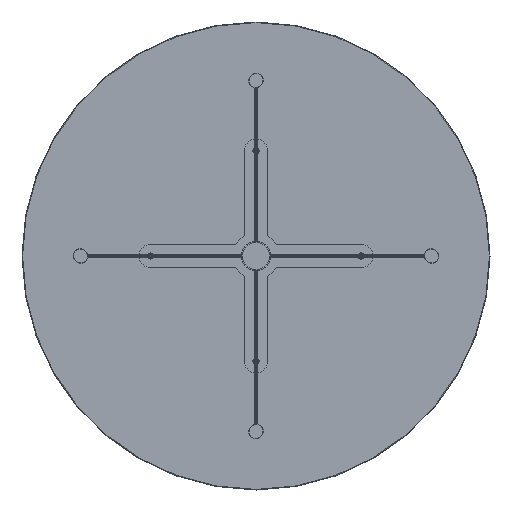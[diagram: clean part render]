
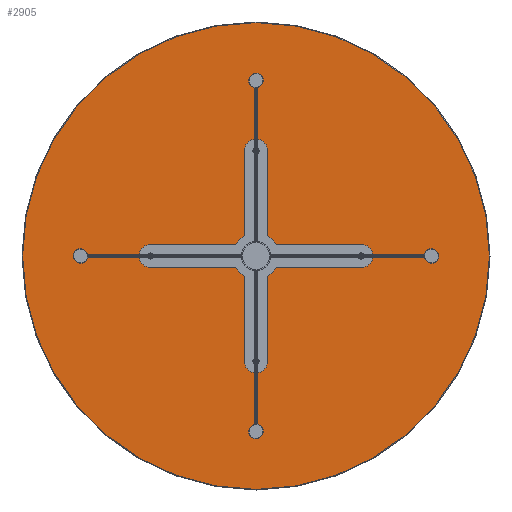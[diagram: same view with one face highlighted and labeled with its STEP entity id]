
A CAD part, front view. The second image highlights one B-rep face of the part: STEP entity #2905.
In plain terms, the highlighted planar face has unit normal (0, -1, 0).
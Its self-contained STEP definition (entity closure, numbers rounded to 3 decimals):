
#159 = DIRECTION ( 'NONE',  ( 0., 1., 0. ) ) ;
#210 = PLANE ( 'NONE',  #7181 ) ;
#286 = CARTESIAN_POINT ( 'NONE',  ( 0., -10., -177. ) ) ;
#321 = ORIENTED_EDGE ( 'NONE', *, *, #2271, .F. ) ;
#407 = AXIS2_PLACEMENT_3D ( 'NONE', #10227, #7865, #9594 ) ;
#576 = DIRECTION ( 'NONE',  ( 0., 0., -1. ) ) ;
#698 = DIRECTION ( 'NONE',  ( 0., 0., 1. ) ) ;
#818 = CIRCLE ( 'NONE', #7238, 399. ) ;
#955 = AXIS2_PLACEMENT_3D ( 'NONE', #2041, #2910, #3064 ) ;
#1029 = ORIENTED_EDGE ( 'NONE', *, *, #5957, .F. ) ;
#1082 = DIRECTION ( 'NONE',  ( 0., 0., -1. ) ) ;
#1107 = DIRECTION ( 'NONE',  ( 0., -1., 0. ) ) ;
#1289 = CARTESIAN_POINT ( 'NONE',  ( -180., -10., 3. ) ) ;
#1391 = VERTEX_POINT ( 'NONE', #2603 ) ;
#1572 = EDGE_LOOP ( 'NONE', ( #3768, #3410 ) ) ;
#1859 = VERTEX_POINT ( 'NONE', #286 ) ;
#1890 = CARTESIAN_POINT ( 'NONE',  ( 0., -10., -180. ) ) ;
#2041 = CARTESIAN_POINT ( 'NONE',  ( 0., -10., 180. ) ) ;
#2118 = ORIENTED_EDGE ( 'NONE', *, *, #6185, .T. ) ;
#2271 = EDGE_CURVE ( 'NONE', #1391, #4537, #7170, .T. ) ;
#2363 = CARTESIAN_POINT ( 'NONE',  ( 0., -10., 0. ) ) ;
#2397 = EDGE_CURVE ( 'NONE', #1859, #6957, #3127, .T. ) ;
#2475 = CARTESIAN_POINT ( 'NONE',  ( 180., -10., -3. ) ) ;
#2603 = CARTESIAN_POINT ( 'NONE',  ( 180., -10., 3. ) ) ;
#2692 = CIRCLE ( 'NONE', #6920, 3. ) ;
#2804 = DIRECTION ( 'NONE',  ( 0., -1., 0. ) ) ;
#2905 = ADVANCED_FACE ( 'NONE', ( #4163, #6200, #8963, #3604, #4464 ), #210, .F. ) ;
#2910 = DIRECTION ( 'NONE',  ( 0., -1., 0. ) ) ;
#3045 = DIRECTION ( 'NONE',  ( 0., -1., 0. ) ) ;
#3064 = DIRECTION ( 'NONE',  ( 0., 0., -1. ) ) ;
#3082 = CARTESIAN_POINT ( 'NONE',  ( 0., -10., -399. ) ) ;
#3127 = CIRCLE ( 'NONE', #6623, 3. ) ;
#3144 = EDGE_LOOP ( 'NONE', ( #6495, #1029 ) ) ;
#3410 = ORIENTED_EDGE ( 'NONE', *, *, #7760, .F. ) ;
#3550 = CARTESIAN_POINT ( 'NONE',  ( 0., -10., 177. ) ) ;
#3604 = FACE_BOUND ( 'NONE', #3144, .T. ) ;
#3621 = AXIS2_PLACEMENT_3D ( 'NONE', #7195, #1107, #3743 ) ;
#3715 = DIRECTION ( 'NONE',  ( 0., 0., 1. ) ) ;
#3743 = DIRECTION ( 'NONE',  ( 0., 0., -1. ) ) ;
#3749 = CARTESIAN_POINT ( 'NONE',  ( -180., -10., 0. ) ) ;
#3768 = ORIENTED_EDGE ( 'NONE', *, *, #3919, .F. ) ;
#3913 = CARTESIAN_POINT ( 'NONE',  ( 0., -10., 399. ) ) ;
#3919 = EDGE_CURVE ( 'NONE', #9378, #4864, #7383, .T. ) ;
#4028 = VERTEX_POINT ( 'NONE', #7730 ) ;
#4133 = ORIENTED_EDGE ( 'NONE', *, *, #5007, .F. ) ;
#4163 = FACE_OUTER_BOUND ( 'NONE', #10010, .T. ) ;
#4297 = DIRECTION ( 'NONE',  ( 0., -1., 0. ) ) ;
#4464 = FACE_BOUND ( 'NONE', #8282, .T. ) ;
#4537 = VERTEX_POINT ( 'NONE', #2475 ) ;
#4673 = DIRECTION ( 'NONE',  ( 0., 0., -1. ) ) ;
#4701 = CARTESIAN_POINT ( 'NONE',  ( 0., -10., 183. ) ) ;
#4832 = CIRCLE ( 'NONE', #11279, 399. ) ;
#4864 = VERTEX_POINT ( 'NONE', #4701 ) ;
#5007 = EDGE_CURVE ( 'NONE', #6957, #1859, #9604, .T. ) ;
#5030 = CIRCLE ( 'NONE', #9818, 3. ) ;
#5076 = ORIENTED_EDGE ( 'NONE', *, *, #8721, .F. ) ;
#5094 = CIRCLE ( 'NONE', #3621, 3. ) ;
#5937 = VERTEX_POINT ( 'NONE', #3913 ) ;
#5957 = EDGE_CURVE ( 'NONE', #7556, #4028, #5030, .T. ) ;
#5981 = ORIENTED_EDGE ( 'NONE', *, *, #2397, .F. ) ;
#6185 = EDGE_CURVE ( 'NONE', #5937, #10896, #818, .T. ) ;
#6200 = FACE_BOUND ( 'NONE', #8302, .T. ) ;
#6233 = DIRECTION ( 'NONE',  ( 0., -1., 0. ) ) ;
#6495 = ORIENTED_EDGE ( 'NONE', *, *, #10717, .F. ) ;
#6497 = DIRECTION ( 'NONE',  ( 0., 0., -1. ) ) ;
#6623 = AXIS2_PLACEMENT_3D ( 'NONE', #1890, #2804, #1082 ) ;
#6625 = ORIENTED_EDGE ( 'NONE', *, *, #7087, .T. ) ;
#6891 = CARTESIAN_POINT ( 'NONE',  ( 180., -10., 0. ) ) ;
#6920 = AXIS2_PLACEMENT_3D ( 'NONE', #10883, #3045, #6497 ) ;
#6957 = VERTEX_POINT ( 'NONE', #10615 ) ;
#7087 = EDGE_CURVE ( 'NONE', #10896, #5937, #4832, .T. ) ;
#7170 = CIRCLE ( 'NONE', #7199, 3. ) ;
#7181 = AXIS2_PLACEMENT_3D ( 'NONE', #10518, #159, #3715 ) ;
#7195 = CARTESIAN_POINT ( 'NONE',  ( 0., -10., 180. ) ) ;
#7199 = AXIS2_PLACEMENT_3D ( 'NONE', #6891, #4297, #11163 ) ;
#7238 = AXIS2_PLACEMENT_3D ( 'NONE', #2363, #8593, #698 ) ;
#7262 = DIRECTION ( 'NONE',  ( 0., -1., 0. ) ) ;
#7383 = CIRCLE ( 'NONE', #955, 3. ) ;
#7556 = VERTEX_POINT ( 'NONE', #1289 ) ;
#7730 = CARTESIAN_POINT ( 'NONE',  ( -180., -10., -3. ) ) ;
#7760 = EDGE_CURVE ( 'NONE', #4864, #9378, #5094, .T. ) ;
#7865 = DIRECTION ( 'NONE',  ( 0., -1., 0. ) ) ;
#8201 = DIRECTION ( 'NONE',  ( 0., 0., 1. ) ) ;
#8282 = EDGE_LOOP ( 'NONE', ( #4133, #5981 ) ) ;
#8302 = EDGE_LOOP ( 'NONE', ( #5076, #321 ) ) ;
#8593 = DIRECTION ( 'NONE',  ( 0., -1., 0. ) ) ;
#8721 = EDGE_CURVE ( 'NONE', #4537, #1391, #9468, .T. ) ;
#8963 = FACE_BOUND ( 'NONE', #1572, .T. ) ;
#9000 = CARTESIAN_POINT ( 'NONE',  ( 0., -10., 0. ) ) ;
#9286 = AXIS2_PLACEMENT_3D ( 'NONE', #9444, #10253, #576 ) ;
#9378 = VERTEX_POINT ( 'NONE', #3550 ) ;
#9444 = CARTESIAN_POINT ( 'NONE',  ( 180., -10., 0. ) ) ;
#9468 = CIRCLE ( 'NONE', #9286, 3. ) ;
#9594 = DIRECTION ( 'NONE',  ( 0., 0., -1. ) ) ;
#9604 = CIRCLE ( 'NONE', #407, 3. ) ;
#9818 = AXIS2_PLACEMENT_3D ( 'NONE', #3749, #7262, #4673 ) ;
#10010 = EDGE_LOOP ( 'NONE', ( #2118, #6625 ) ) ;
#10227 = CARTESIAN_POINT ( 'NONE',  ( 0., -10., -180. ) ) ;
#10253 = DIRECTION ( 'NONE',  ( 0., -1., 0. ) ) ;
#10518 = CARTESIAN_POINT ( 'NONE',  ( 0., -10., 0. ) ) ;
#10615 = CARTESIAN_POINT ( 'NONE',  ( 0., -10., -183. ) ) ;
#10717 = EDGE_CURVE ( 'NONE', #4028, #7556, #2692, .T. ) ;
#10883 = CARTESIAN_POINT ( 'NONE',  ( -180., -10., 0. ) ) ;
#10896 = VERTEX_POINT ( 'NONE', #3082 ) ;
#11163 = DIRECTION ( 'NONE',  ( 0., 0., -1. ) ) ;
#11279 = AXIS2_PLACEMENT_3D ( 'NONE', #9000, #6233, #8201 ) ;
